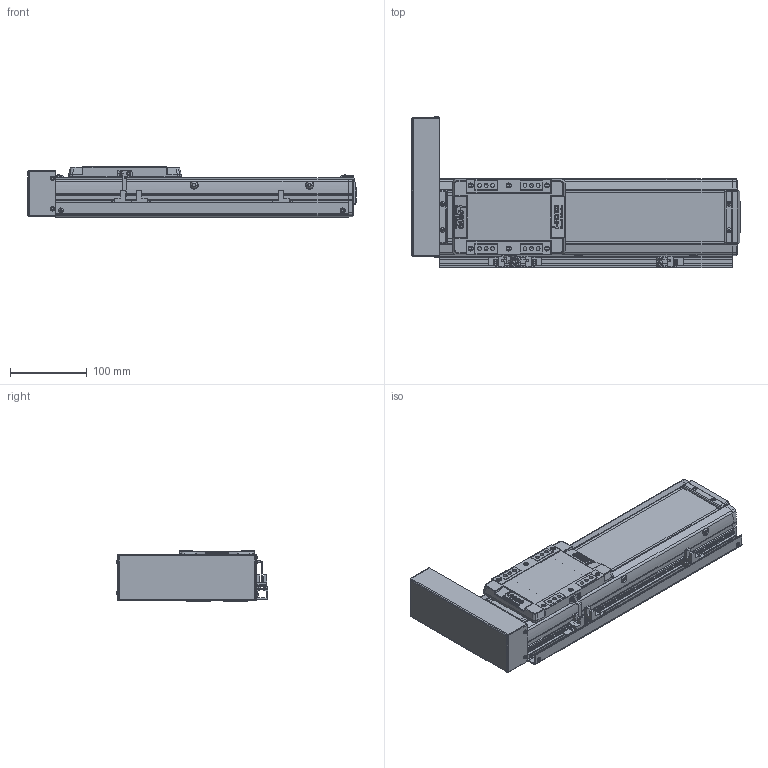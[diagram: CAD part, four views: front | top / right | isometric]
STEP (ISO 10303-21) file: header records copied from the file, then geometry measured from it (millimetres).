
FILE_DESCRIPTION(('STEP AP214'),'1');
FILE_NAME('Z:/Web/3D/SAN100/SAN100 양산용 (STEP)/SAN100ㅁㅁ-200PL+3SR.stp','2013-04-25T01:08:00',(' '),(' '),'Spatial InterOp 3D',' ',' ');
FILE_SCHEMA(('automotive_design'));
Length unit declared in the file: millimetre
Products named in the file (49): BTCV-SAN65; BHCS M3 X 6L; SUS COVER; SFX-SAN100; RRCV-SAN100; 스크루 : Round - M4.0 x 10.0; M3.0 x 6.0; 스크루 : Round - M3.0 x 6.0; FRBL-SAN100; SLBL-SAN100; SLCV-SAN100; 스크루 : Countersunk - M3.0 x 6.0; BASE; 스크루 : Round - M5.0 x 6.0; EE-SX674; SBK-SX674-352; SRL-16x17-380L; SGD-SAN100
Bounding box: 426.5 x 197.06 x 66 mm (x, y, z)
Volume: 1589520.4 mm3; surface area: 409458.1 mm2
Topology: 49 solids, 50 shells, 2329 faces, 6060 edges, 3929 vertices
Faces by surface type: plane 1278, cylinder 771, cone 182, sphere 64, torus 18, bspline 16
Entity records: 91740 total; most frequent: CARTESIAN_POINT 13613, DIRECTION 12747, ORIENTED_EDGE 11964, EDGE_CURVE 5982, AXIS2_PLACEMENT_3D 4484, VERTEX_POINT 3929, LINE 3779, VECTOR 3779
